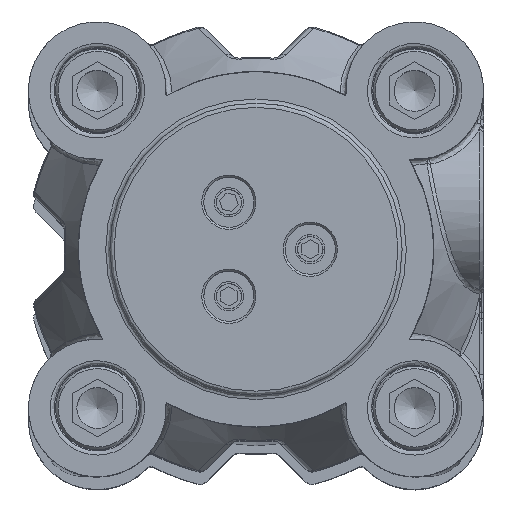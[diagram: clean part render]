
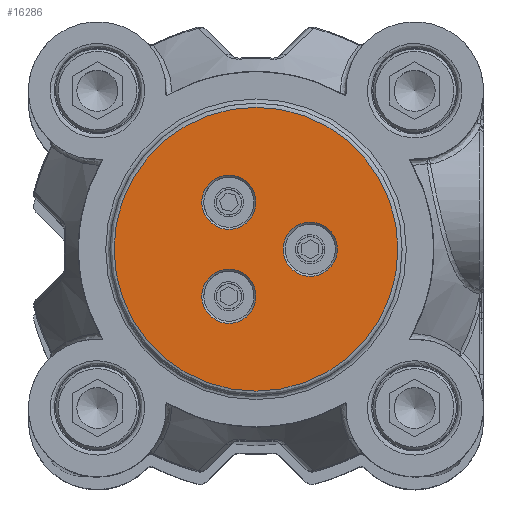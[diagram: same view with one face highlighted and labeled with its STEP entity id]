
A CAD part, top view. The second image highlights one B-rep face of the part: STEP entity #16286.
In plain terms, the highlighted planar face has unit normal (0, 0, 1) as drawn and (0, 0, -1) by its records, which use the part's own axes.
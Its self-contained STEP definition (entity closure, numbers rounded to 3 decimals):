
#6939=ORIENTED_EDGE('',*,*,#9945,.T.);
#6940=ORIENTED_EDGE('',*,*,#9946,.T.);
#6941=ORIENTED_EDGE('',*,*,#9947,.T.);
#6942=ORIENTED_EDGE('',*,*,#9948,.T.);
#6943=ORIENTED_EDGE('',*,*,#9949,.T.);
#6944=ORIENTED_EDGE('',*,*,#9950,.T.);
#6945=ORIENTED_EDGE('',*,*,#9951,.F.);
#6946=ORIENTED_EDGE('',*,*,#9952,.F.);
#9945=EDGE_CURVE('',#11712,#11713,#12767,.T.);
#9946=EDGE_CURVE('',#11713,#11712,#12768,.T.);
#9947=EDGE_CURVE('',#11714,#11715,#12769,.T.);
#9948=EDGE_CURVE('',#11715,#11714,#12770,.T.);
#9949=EDGE_CURVE('',#11716,#11717,#12771,.T.);
#9950=EDGE_CURVE('',#11717,#11716,#12772,.T.);
#9951=EDGE_CURVE('',#11718,#11719,#12773,.T.);
#9952=EDGE_CURVE('',#11719,#11718,#12774,.T.);
#11712=VERTEX_POINT('',#36007);
#11713=VERTEX_POINT('',#36008);
#11714=VERTEX_POINT('',#36011);
#11715=VERTEX_POINT('',#36012);
#11716=VERTEX_POINT('',#36015);
#11717=VERTEX_POINT('',#36016);
#11718=VERTEX_POINT('',#36019);
#11719=VERTEX_POINT('',#36020);
#12767=CIRCLE('',#23439,3.25);
#12768=CIRCLE('',#23440,3.25);
#12769=CIRCLE('',#23441,3.25);
#12770=CIRCLE('',#23442,3.25);
#12771=CIRCLE('',#23443,3.25);
#12772=CIRCLE('',#23444,3.25);
#12773=CIRCLE('',#23445,17.);
#12774=CIRCLE('',#23446,17.);
#13752=EDGE_LOOP('',(#6939,#6940));
#13753=EDGE_LOOP('',(#6941,#6942));
#13754=EDGE_LOOP('',(#6943,#6944));
#13755=EDGE_LOOP('',(#6945,#6946));
#14876=FACE_BOUND('',#13752,.T.);
#14877=FACE_BOUND('',#13753,.T.);
#14878=FACE_BOUND('',#13754,.T.);
#14879=FACE_BOUND('',#13755,.T.);
#15425=PLANE('',#23438);
#16286=ADVANCED_FACE('',(#14876,#14877,#14878,#14879),#15425,.T.);
#23438=AXIS2_PLACEMENT_3D('',#36005,#27343,#27344);
#23439=AXIS2_PLACEMENT_3D('',#36006,#27345,#27346);
#23440=AXIS2_PLACEMENT_3D('',#36009,#27347,#27348);
#23441=AXIS2_PLACEMENT_3D('',#36010,#27349,#27350);
#23442=AXIS2_PLACEMENT_3D('',#36013,#27351,#27352);
#23443=AXIS2_PLACEMENT_3D('',#36014,#27353,#27354);
#23444=AXIS2_PLACEMENT_3D('',#36017,#27355,#27356);
#23445=AXIS2_PLACEMENT_3D('',#36018,#27357,#27358);
#23446=AXIS2_PLACEMENT_3D('',#36021,#27359,#27360);
#27343=DIRECTION('',(0.,0.,-1.));
#27344=DIRECTION('',(1.,0.,0.));
#27345=DIRECTION('',(0.,0.,1.));
#27346=DIRECTION('',(1.,0.,0.));
#27347=DIRECTION('',(0.,0.,1.));
#27348=DIRECTION('',(1.,0.,0.));
#27349=DIRECTION('',(0.,0.,1.));
#27350=DIRECTION('',(1.,0.,0.));
#27351=DIRECTION('',(0.,0.,1.));
#27352=DIRECTION('',(1.,0.,0.));
#27353=DIRECTION('',(0.,0.,1.));
#27354=DIRECTION('',(1.,0.,0.));
#27355=DIRECTION('',(0.,0.,1.));
#27356=DIRECTION('',(1.,0.,0.));
#27357=DIRECTION('',(0.,0.,1.));
#27358=DIRECTION('',(-1.,0.,0.));
#27359=DIRECTION('',(0.,0.,1.));
#27360=DIRECTION('',(-1.,0.,0.));
#36005=CARTESIAN_POINT('',(8.75,0.,-122.));
#36006=CARTESIAN_POINT('',(-3.25,5.629,-122.));
#36007=CARTESIAN_POINT('',(0.,5.629,-122.));
#36008=CARTESIAN_POINT('',(-6.5,5.629,-122.));
#36009=CARTESIAN_POINT('',(-3.25,5.629,-122.));
#36010=CARTESIAN_POINT('',(6.5,0.,-122.));
#36011=CARTESIAN_POINT('',(9.75,0.,-122.));
#36012=CARTESIAN_POINT('',(3.25,0.,-122.));
#36013=CARTESIAN_POINT('',(6.5,0.,-122.));
#36014=CARTESIAN_POINT('',(-3.25,-5.629,-122.));
#36015=CARTESIAN_POINT('',(0.,-5.629,-122.));
#36016=CARTESIAN_POINT('',(-6.5,-5.629,-122.));
#36017=CARTESIAN_POINT('',(-3.25,-5.629,-122.));
#36018=CARTESIAN_POINT('',(0.,0.,
-122.));
#36019=CARTESIAN_POINT('',(17.,0.,-122.));
#36020=CARTESIAN_POINT('',(-17.,0.,-122.));
#36021=CARTESIAN_POINT('',(0.,0.,
-122.));
